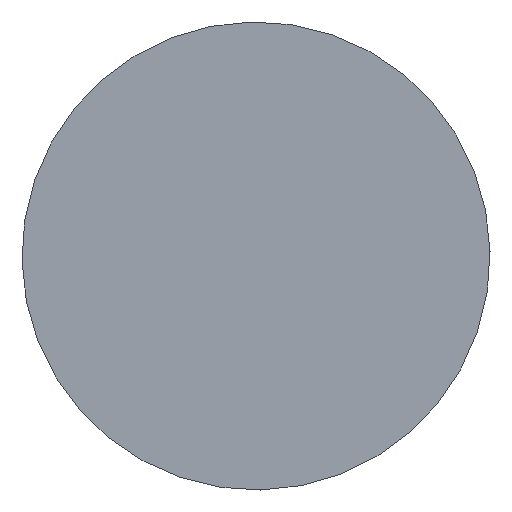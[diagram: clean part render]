
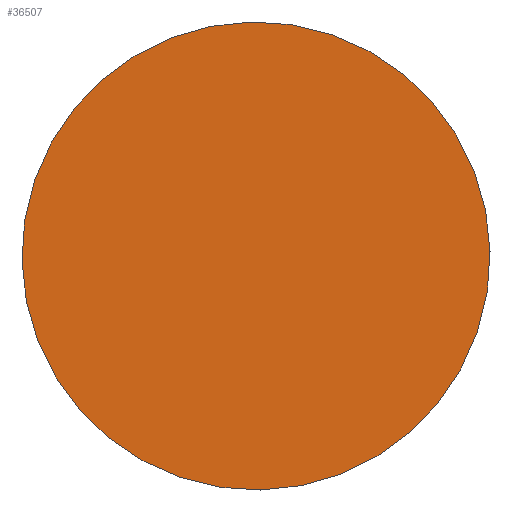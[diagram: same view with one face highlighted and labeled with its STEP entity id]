
A CAD part, left-side view. The second image highlights one B-rep face of the part: STEP entity #36507.
In plain terms, the highlighted planar face has unit normal (-1, 0, 0).
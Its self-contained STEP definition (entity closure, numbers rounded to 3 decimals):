
#36484=CARTESIAN_POINT('',(-27.588,76.569,25.832));
#36485=VERTEX_POINT('',#36484);
#36486=CARTESIAN_POINT('',(-27.588,29.719,0.));
#36487=DIRECTION('',(-1.,0.,0.));
#36488=DIRECTION('',(0.,0.876,0.483));
#36489=AXIS2_PLACEMENT_3D('',#36486,#36487,#36488);
#36490=CIRCLE('',#36489,53.5);
#36491=EDGE_CURVE('',#36485,#36485,#36490,.T.);
#36499=CARTESIAN_POINT('',(-27.588,70.658,22.573));
#36500=DIRECTION('',(-1.0,0.0,0.0));
#36501=DIRECTION('',(0.0,0.483,-0.876));
#36502=AXIS2_PLACEMENT_3D('',#36499,#36500,#36501);
#36503=PLANE('',#36502);
#36504=ORIENTED_EDGE('',*,*,#36491,.T.);
#36505=EDGE_LOOP('',(#36504));
#36506=FACE_OUTER_BOUND('',#36505,.T.);
#36507=ADVANCED_FACE('',(#36506),#36503,.T.);
